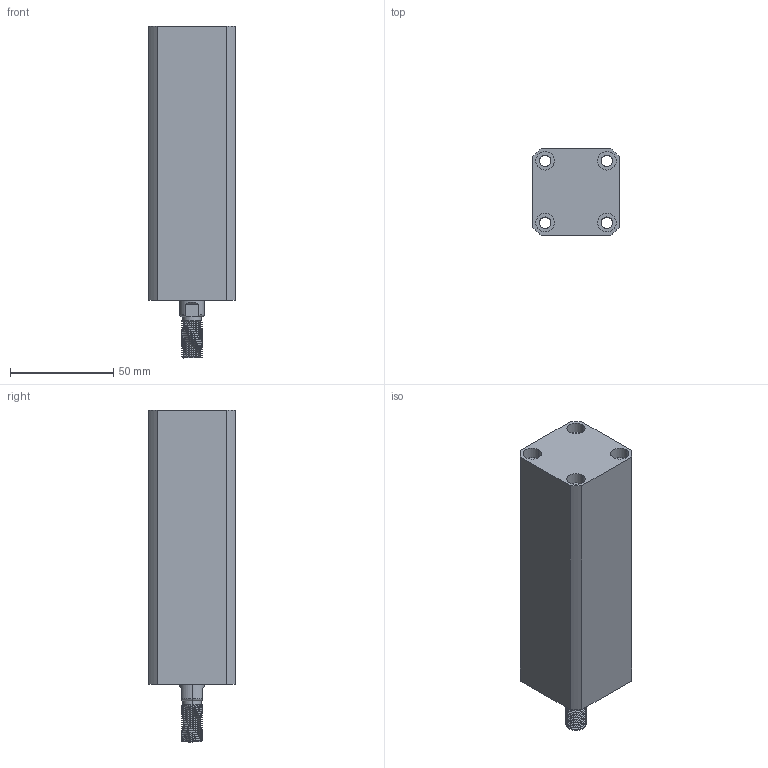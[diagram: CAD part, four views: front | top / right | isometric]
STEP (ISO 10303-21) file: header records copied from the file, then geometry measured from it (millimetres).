
FILE_DESCRIPTION (( 'STEP AP214' ), '1' );
FILE_NAME ('chtb-sd20x90w_asm.STEP', '2018-05-16T09:55:43', ( 'Windows' ), ( 'Microsoft' ), 'SwSTEP 2.0', 'SolidWorks 2015', '' );
FILE_SCHEMA (( 'AUTOMOTIVE_DESIGN' ));
Length unit declared in the file: millimetre
Products named in the file (4): QG; CHTB-SD20X90WHSG; CHTB-SD20X90NBT; chtb-sd20x90w_asm
Assembly tree (3 placements, depth 2):
  chtb-sd20x90w_asm
    CHTB-SD20X90NBT
    CHTB-SD20X90WHSG
    QG
Bounding box: 42 x 42 x 161 mm (x, y, z)
Volume: 197042.4 mm3; surface area: 54940.5 mm2
Topology: 3 solids, 3 shells, 234 faces, 624 edges, 415 vertices
Faces by surface type: cylinder 139, plane 40, torus 25, bspline 21, cone 9
Entity records: 13734 total; most frequent: CARTESIAN_POINT 8172, ORIENTED_EDGE 1240, DIRECTION 1039, EDGE_CURVE 620, AXIS2_PLACEMENT_3D 431, VERTEX_POINT 415, EDGE_LOOP 271, ADVANCED_FACE 234
